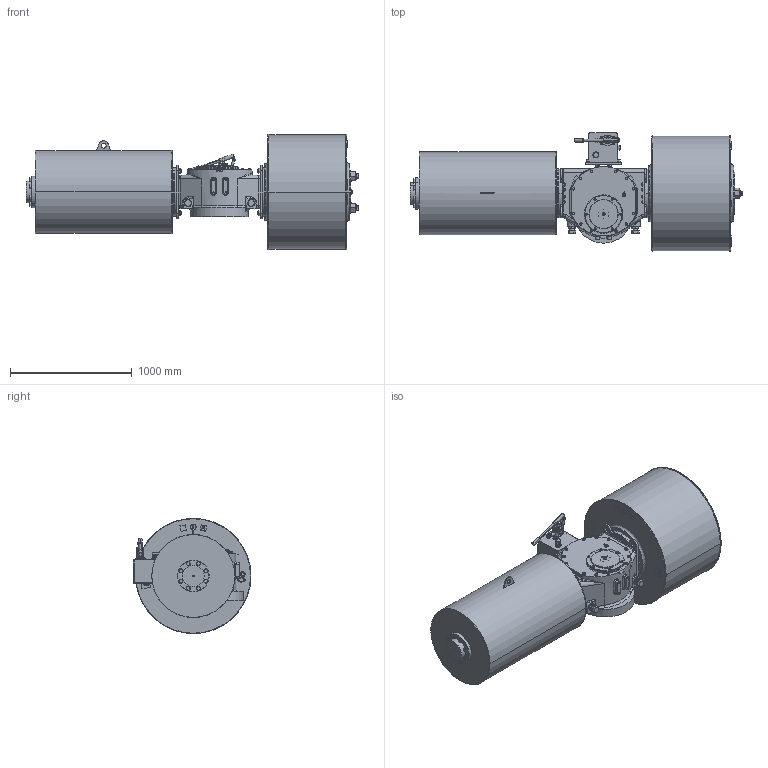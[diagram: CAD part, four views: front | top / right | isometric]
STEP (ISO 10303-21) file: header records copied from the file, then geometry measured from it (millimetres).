
FILE_DESCRIPTION (( 'STEP AP203' ), '1' );
FILE_NAME ('VTS6-900-SR-MH-FO.STEP', '2023-01-01T10:01:05', ( '' ), ( '' ), 'SwSTEP 2.0', 'SolidWorks 2020', '' );
FILE_SCHEMA (( 'CONFIG_CONTROL_DESIGN' ));
Length unit declared in the file: millimetre
Products named in the file (1): VTS6-900-SR-MH-FO
Bounding box: 2725 x 968.5 x 947 mm (x, y, z)
Volume: 1003555841.9 mm3; surface area: 10363544.9 mm2
Topology: 52 solids, 63 shells, 3061 faces, 7629 edges, 4852 vertices
Faces by surface type: plane 1226, cylinder 1065, cone 675, bspline 95
Entity records: 106104 total; most frequent: CARTESIAN_POINT 33313, DIRECTION 15374, ORIENTED_EDGE 15114, EDGE_CURVE 7557, AXIS2_PLACEMENT_3D 6107, VERTEX_POINT 4852, EDGE_LOOP 3493, LINE 3160
